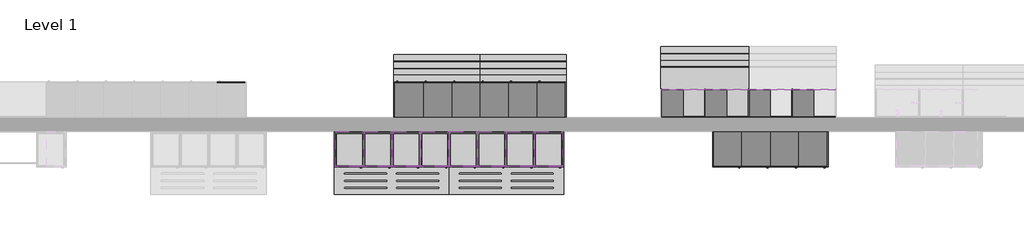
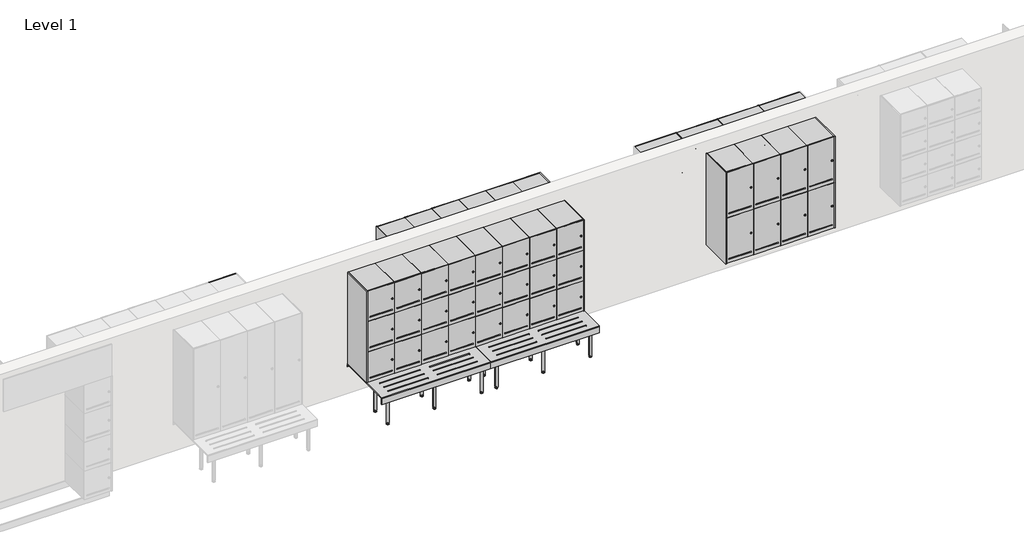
# One storey, part 3 of 4: 124 furniture elements.
"""IFC4 building model written with IfcOpenShell, lengths in millimetres."""

from ifc_helpers import new_model, si_unit, origin, place, context, project, spatial, transform, mapped, element, save
from components import furniture_05545089, furniture_7293fc8f, furniture_6c30b95b, standard_2dcb62da, standard_f5ae554c, standard_45df0485, standard_98e0e482, standard_13bdcb3e, standard_06cb4884, standard_31d623df, standard_bf09c246, standard_42a54a5f, standard_04b66620, standard_fa82621c, standard_c1a46ae4, standard_a503a910, standard_bb7d0adb, standard_d1edd0f1, standard_c1bdd0ff, standard_ba7fbf49, standard_b3b08be9

model = new_model("IFC4")

# Units and contexts
model_context = context("Model", 3, world=origin())
ifc_project = project(units=[si_unit("LENGTHUNIT", "METRE", prefix="MILLI")], contexts=[model_context])

# Site, building, storey
site = spatial("IfcSite", under=ifc_project)
building = spatial("IfcBuilding", under=site)
storey = spatial("IfcBuildingStorey", under=building, Name="Level 1", Elevation=0.0)

# Furniture
placement = place(None, origin())
furniture_shape = furniture_05545089(model_context)
element("IfcFurniture", 1, ObjectType="Lockers-Bay-Duracube-Duraloc : LBM-1900h x 500d x 400w with 470h Bench", at=placement, inside=storey, context=model_context, shape_type="MappedRepresentation", body=[
    mapped(furniture_shape, transform((-1055.1575415, 2567.7422336, 0.0), x_axis=(1.0, 0.0, 0.0), y_axis=(0.0, 1.0, 0.0), z_axis=(0.0, 0.0, 1.0))),
])
furniture_2_shape = furniture_7293fc8f(model_context)
element("IfcFurniture", 2, ObjectType="Lockers-Bay-Duracube-Duraloc : LWM-1900h x 500d x 400w @ 470h Wall", at=placement, inside=storey, context=model_context, shape_type="MappedRepresentation", body=[
    mapped(furniture_2_shape, transform((4264.8424585, 2567.7422336, 0.0), x_axis=(1.0, 0.0, 0.0), y_axis=(0.0, 1.0, 0.0), z_axis=(0.0, 0.0, 1.0))),
])
furniture_3_shape = furniture_6c30b95b(model_context)
element("IfcFurniture", 3, ObjectType="Lockers-Bay-Duracube-Duraloc : LSBSM-1900h x 500d x 400w with 470h Shoe Box Bench", at=placement, inside=storey, context=model_context, shape_type="MappedRepresentation", body=[
    mapped(furniture_3_shape, transform((2206.8576586, 3267.7422336, 0.0), x_axis=(-1.0, 0.0, 0.0), y_axis=(0.0, -1.0, 0.0), z_axis=(0.0, 0.0, 1.0))),
])
standard_shape = standard_2dcb62da(model_context)
element("IfcFurniture", 4, ObjectType="X_Bench-Foot-Duracube-Wall Assembly : Standard", at=placement, inside=storey, context=model_context, shape_type="MappedRepresentation", body=[
    mapped(standard_shape, transform((626.642132, 2317.7422336, 0.0), x_axis=(1.0, 0.0, 0.0), y_axis=(0.0, 1.0, 0.0), z_axis=(0.0, 0.0, 1.0))),
])
element("IfcFurniture", 5, ObjectType="X_Bench-Foot-Duracube-Wall Assembly : Standard", at=placement, inside=storey, context=model_context, shape_type="MappedRepresentation", body=[
    mapped(standard_shape, transform((1319.642132, 2317.7422336, 0.0), x_axis=(1.0, 0.0, 0.0), y_axis=(0.0, 1.0, 0.0), z_axis=(0.0, 0.0, 1.0))),
])
element("IfcFurniture", 6, ObjectType="X_Bench-Foot-Duracube-Wall Assembly : Standard", at=placement, inside=storey, context=model_context, shape_type="MappedRepresentation", body=[
    mapped(standard_shape, transform((-986.357868, 2317.7422336, 0.0), x_axis=(1.0, 0.0, 0.0), y_axis=(0.0, 1.0, 0.0), z_axis=(0.0, 0.0, 1.0))),
])
element("IfcFurniture", 7, ObjectType="X_Bench-Foot-Duracube-Wall Assembly : Standard", at=placement, inside=storey, context=model_context, shape_type="MappedRepresentation", body=[
    mapped(standard_shape, transform((-293.357868, 2317.7422336, 0.0), x_axis=(1.0, 0.0, 0.0), y_axis=(0.0, 1.0, 0.0), z_axis=(0.0, 0.0, 1.0))),
])
standard_2_shape = standard_f5ae554c(model_context)
element("IfcFurniture", 8, ObjectType="X_Bench-Foot-Duracube-Wall Assembly : Standard", at=placement, inside=storey, context=model_context, shape_type="MappedRepresentation", body=[
    mapped(standard_2_shape, transform((2102.0427849, 2317.7422336, 0.0), x_axis=(-1.0, 0.0, 0.0), y_axis=(0.0, -1.0, 0.0), z_axis=(0.0, 0.0, 1.0))),
])
element("IfcFurniture", 9, ObjectType="X_Bench-Foot-Duracube-Wall Assembly : Standard", at=placement, inside=storey, context=model_context, shape_type="MappedRepresentation", body=[
    mapped(standard_2_shape, transform((489.0427849, 2317.7422336, 0.0), x_axis=(-1.0, 0.0, 0.0), y_axis=(0.0, -1.0, 0.0), z_axis=(0.0, 0.0, 1.0))),
])
standard_3_shape = standard_45df0485(model_context)
element("IfcFurniture", 10, ObjectType="X_Vanity-Angle-Duracube-Bench Support : Standard", at=placement, inside=storey, context=model_context, shape_type="MappedRepresentation", body=[
    mapped(standard_3_shape, transform((1319.642132, 2817.7422336, 417.0), x_axis=(1.0, 0.0, 0.0), y_axis=(0.0, 1.0, 0.0), z_axis=(0.0, 0.0, 1.0))),
])
element("IfcFurniture", 11, ObjectType="X_Vanity-Angle-Duracube-Bench Support : Standard", at=placement, inside=storey, context=model_context, shape_type="MappedRepresentation", body=[
    mapped(standard_3_shape, transform((-293.357868, 2817.7422336, 417.0), x_axis=(1.0, 0.0, 0.0), y_axis=(0.0, 1.0, 0.0), z_axis=(0.0, 0.0, 1.0))),
])
standard_4_shape = standard_98e0e482(model_context)
element("IfcFurniture", 12, ObjectType="X_Bench-Wall-Duracube-Locker : Standard", at=placement, inside=storey, context=model_context, shape_type="MappedRepresentation", body=[
    mapped(standard_4_shape, transform((1319.642132, 2725.2422336, 0.0), x_axis=(1.0, 0.0, 0.0), y_axis=(0.0, 1.0, 0.0), z_axis=(0.0, 0.0, 1.0))),
])
element("IfcFurniture", 13, ObjectType="X_Bench-Wall-Duracube-Locker : Standard", at=placement, inside=storey, context=model_context, shape_type="MappedRepresentation", body=[
    mapped(standard_4_shape, transform((-293.357868, 2725.2422336, 0.0), x_axis=(1.0, 0.0, 0.0), y_axis=(0.0, 1.0, 0.0), z_axis=(0.0, 0.0, 1.0))),
])
standard_5_shape = standard_13bdcb3e(model_context)
element("IfcFurniture", 14, ObjectType="X_Vanity-Angle-Duracube-Bench Support : Standard", at=placement, inside=storey, context=model_context, shape_type="MappedRepresentation", body=[
    mapped(standard_5_shape, transform((1645.057985, 3017.7422336, 430.0), x_axis=(-1.0, 0.0, 0.0), y_axis=(0.0, -1.0, 0.0), z_axis=(0.0, 0.0, 1.0))),
])
element("IfcFurniture", 15, ObjectType="X_Vanity-Angle-Duracube-Bench Support : Standard", at=placement, inside=storey, context=model_context, shape_type="MappedRepresentation", body=[
    mapped(standard_5_shape, transform((432.057985, 3017.7422336, 430.0), x_axis=(-1.0, 0.0, 0.0), y_axis=(0.0, -1.0, 0.0), z_axis=(0.0, 0.0, 1.0))),
])
standard_6_shape = standard_06cb4884(model_context)
element("IfcFurniture", 16, ObjectType="X_Locker-Duracube-Door : Standard", at=placement, inside=storey, context=model_context, shape_type="MappedRepresentation", body=[
    mapped(standard_6_shape, transform((1913.142132, 2330.7422336, 1423.3333333), x_axis=(1.0, 0.0, 0.0), y_axis=(0.0, 1.0, 0.0), z_axis=(0.0, 0.0, 1.0))),
])
element("IfcFurniture", 17, ObjectType="X_Locker-Duracube-Door : Standard", at=placement, inside=storey, context=model_context, shape_type="MappedRepresentation", body=[
    mapped(standard_6_shape, transform((1513.142132, 2330.7422336, 1423.3333333), x_axis=(1.0, 0.0, 0.0), y_axis=(0.0, 1.0, 0.0), z_axis=(0.0, 0.0, 1.0))),
])
element("IfcFurniture", 18, ObjectType="X_Locker-Duracube-Door : Standard", at=placement, inside=storey, context=model_context, shape_type="MappedRepresentation", body=[
    mapped(standard_6_shape, transform((1113.142132, 2330.7422336, 1423.3333333), x_axis=(1.0, 0.0, 0.0), y_axis=(0.0, 1.0, 0.0), z_axis=(0.0, 0.0, 1.0))),
])
element("IfcFurniture", 19, ObjectType="X_Locker-Duracube-Door : Standard", at=placement, inside=storey, context=model_context, shape_type="MappedRepresentation", body=[
    mapped(standard_6_shape, transform((713.142132, 2330.7422336, 1423.3333333), x_axis=(1.0, 0.0, 0.0), y_axis=(0.0, 1.0, 0.0), z_axis=(0.0, 0.0, 1.0))),
])
element("IfcFurniture", 20, ObjectType="X_Locker-Duracube-Door : Standard", at=placement, inside=storey, context=model_context, shape_type="MappedRepresentation", body=[
    mapped(standard_6_shape, transform((313.142132, 2330.7422336, 1423.3333333), x_axis=(1.0, 0.0, 0.0), y_axis=(0.0, 1.0, 0.0), z_axis=(0.0, 0.0, 1.0))),
])
element("IfcFurniture", 21, ObjectType="X_Locker-Duracube-Door : Standard", at=placement, inside=storey, context=model_context, shape_type="MappedRepresentation", body=[
    mapped(standard_6_shape, transform((-86.857868, 2330.7422336, 1423.3333333), x_axis=(1.0, 0.0, 0.0), y_axis=(0.0, 1.0, 0.0), z_axis=(0.0, 0.0, 1.0))),
])
element("IfcFurniture", 22, ObjectType="X_Locker-Duracube-Door : Standard", at=placement, inside=storey, context=model_context, shape_type="MappedRepresentation", body=[
    mapped(standard_6_shape, transform((1913.142132, 2330.7422336, 946.6666667), x_axis=(1.0, 0.0, 0.0), y_axis=(0.0, 1.0, 0.0), z_axis=(0.0, 0.0, 1.0))),
])
element("IfcFurniture", 23, ObjectType="X_Locker-Duracube-Door : Standard", at=placement, inside=storey, context=model_context, shape_type="MappedRepresentation", body=[
    mapped(standard_6_shape, transform((1513.142132, 2330.7422336, 946.6666667), x_axis=(1.0, 0.0, 0.0), y_axis=(0.0, 1.0, 0.0), z_axis=(0.0, 0.0, 1.0))),
])
element("IfcFurniture", 24, ObjectType="X_Locker-Duracube-Door : Standard", at=placement, inside=storey, context=model_context, shape_type="MappedRepresentation", body=[
    mapped(standard_6_shape, transform((1113.142132, 2330.7422336, 946.6666667), x_axis=(1.0, 0.0, 0.0), y_axis=(0.0, 1.0, 0.0), z_axis=(0.0, 0.0, 1.0))),
])
element("IfcFurniture", 25, ObjectType="X_Locker-Duracube-Door : Standard", at=placement, inside=storey, context=model_context, shape_type="MappedRepresentation", body=[
    mapped(standard_6_shape, transform((713.142132, 2330.7422336, 946.6666667), x_axis=(1.0, 0.0, 0.0), y_axis=(0.0, 1.0, 0.0), z_axis=(0.0, 0.0, 1.0))),
])
element("IfcFurniture", 26, ObjectType="X_Locker-Duracube-Door : Standard", at=placement, inside=storey, context=model_context, shape_type="MappedRepresentation", body=[
    mapped(standard_6_shape, transform((313.142132, 2330.7422336, 946.6666667), x_axis=(1.0, 0.0, 0.0), y_axis=(0.0, 1.0, 0.0), z_axis=(0.0, 0.0, 1.0))),
])
element("IfcFurniture", 27, ObjectType="X_Locker-Duracube-Door : Standard", at=placement, inside=storey, context=model_context, shape_type="MappedRepresentation", body=[
    mapped(standard_6_shape, transform((-86.857868, 2330.7422336, 946.6666667), x_axis=(1.0, 0.0, 0.0), y_axis=(0.0, 1.0, 0.0), z_axis=(0.0, 0.0, 1.0))),
])
element("IfcFurniture", 28, ObjectType="X_Locker-Duracube-Door : Standard", at=placement, inside=storey, context=model_context, shape_type="MappedRepresentation", body=[
    mapped(standard_6_shape, transform((1913.142132, 2330.7422336, 470.0), x_axis=(1.0, 0.0, 0.0), y_axis=(0.0, 1.0, 0.0), z_axis=(0.0, 0.0, 1.0))),
])
element("IfcFurniture", 29, ObjectType="X_Locker-Duracube-Door : Standard", at=placement, inside=storey, context=model_context, shape_type="MappedRepresentation", body=[
    mapped(standard_6_shape, transform((1513.142132, 2330.7422336, 470.0), x_axis=(1.0, 0.0, 0.0), y_axis=(0.0, 1.0, 0.0), z_axis=(0.0, 0.0, 1.0))),
])
element("IfcFurniture", 30, ObjectType="X_Locker-Duracube-Door : Standard", at=placement, inside=storey, context=model_context, shape_type="MappedRepresentation", body=[
    mapped(standard_6_shape, transform((1113.142132, 2330.7422336, 470.0), x_axis=(1.0, 0.0, 0.0), y_axis=(0.0, 1.0, 0.0), z_axis=(0.0, 0.0, 1.0))),
])
element("IfcFurniture", 31, ObjectType="X_Locker-Duracube-Door : Standard", at=placement, inside=storey, context=model_context, shape_type="MappedRepresentation", body=[
    mapped(standard_6_shape, transform((713.142132, 2330.7422336, 470.0), x_axis=(1.0, 0.0, 0.0), y_axis=(0.0, 1.0, 0.0), z_axis=(0.0, 0.0, 1.0))),
])
element("IfcFurniture", 32, ObjectType="X_Locker-Duracube-Door : Standard", at=placement, inside=storey, context=model_context, shape_type="MappedRepresentation", body=[
    mapped(standard_6_shape, transform((313.142132, 2330.7422336, 470.0), x_axis=(1.0, 0.0, 0.0), y_axis=(0.0, 1.0, 0.0), z_axis=(0.0, 0.0, 1.0))),
])
element("IfcFurniture", 33, ObjectType="X_Locker-Duracube-Door : Standard", at=placement, inside=storey, context=model_context, shape_type="MappedRepresentation", body=[
    mapped(standard_6_shape, transform((-86.857868, 2330.7422336, 470.0), x_axis=(1.0, 0.0, 0.0), y_axis=(0.0, 1.0, 0.0), z_axis=(0.0, 0.0, 1.0))),
])
element("IfcFurniture", 34, ObjectType="X_Locker-Duracube-Door : Standard", at=placement, inside=storey, context=model_context, shape_type="MappedRepresentation", body=[
    mapped(standard_6_shape, transform((-486.857868, 2330.7422336, 1423.3333333), x_axis=(1.0, 0.0, 0.0), y_axis=(0.0, 1.0, 0.0), z_axis=(0.0, 0.0, 1.0))),
])
element("IfcFurniture", 35, ObjectType="X_Locker-Duracube-Door : Standard", at=placement, inside=storey, context=model_context, shape_type="MappedRepresentation", body=[
    mapped(standard_6_shape, transform((-486.857868, 2330.7422336, 946.6666667), x_axis=(1.0, 0.0, 0.0), y_axis=(0.0, 1.0, 0.0), z_axis=(0.0, 0.0, 1.0))),
])
element("IfcFurniture", 36, ObjectType="X_Locker-Duracube-Door : Standard", at=placement, inside=storey, context=model_context, shape_type="MappedRepresentation", body=[
    mapped(standard_6_shape, transform((-486.857868, 2330.7422336, 470.0), x_axis=(1.0, 0.0, 0.0), y_axis=(0.0, 1.0, 0.0), z_axis=(0.0, 0.0, 1.0))),
])
element("IfcFurniture", 37, ObjectType="X_Locker-Duracube-Door : Standard", at=placement, inside=storey, context=model_context, shape_type="MappedRepresentation", body=[
    mapped(standard_6_shape, transform((-886.857868, 2330.7422336, 1423.3333333), x_axis=(1.0, 0.0, 0.0), y_axis=(0.0, 1.0, 0.0), z_axis=(0.0, 0.0, 1.0))),
])
element("IfcFurniture", 38, ObjectType="X_Locker-Duracube-Door : Standard", at=placement, inside=storey, context=model_context, shape_type="MappedRepresentation", body=[
    mapped(standard_6_shape, transform((-886.857868, 2330.7422336, 946.6666667), x_axis=(1.0, 0.0, 0.0), y_axis=(0.0, 1.0, 0.0), z_axis=(0.0, 0.0, 1.0))),
])
element("IfcFurniture", 39, ObjectType="X_Locker-Duracube-Door : Standard", at=placement, inside=storey, context=model_context, shape_type="MappedRepresentation", body=[
    mapped(standard_6_shape, transform((-886.857868, 2330.7422336, 470.0), x_axis=(1.0, 0.0, 0.0), y_axis=(0.0, 1.0, 0.0), z_axis=(0.0, 0.0, 1.0))),
])
standard_7_shape = standard_31d623df(model_context)
element("IfcFurniture", 40, ObjectType="X_Locker-Duracube-Door : Standard", at=placement, inside=storey, context=model_context, shape_type="MappedRepresentation", body=[
    mapped(standard_7_shape, transform((5633.142132, 2330.7422336, 1185.0), x_axis=(1.0, 0.0, 0.0), y_axis=(0.0, 1.0, 0.0), z_axis=(0.0, 0.0, 1.0))),
])
element("IfcFurniture", 41, ObjectType="X_Locker-Duracube-Door : Standard", at=placement, inside=storey, context=model_context, shape_type="MappedRepresentation", body=[
    mapped(standard_7_shape, transform((5233.142132, 2330.7422336, 1185.0), x_axis=(1.0, 0.0, 0.0), y_axis=(0.0, 1.0, 0.0), z_axis=(0.0, 0.0, 1.0))),
])
element("IfcFurniture", 42, ObjectType="X_Locker-Duracube-Door : Standard", at=placement, inside=storey, context=model_context, shape_type="MappedRepresentation", body=[
    mapped(standard_7_shape, transform((5633.142132, 2330.7422336, 470.0), x_axis=(1.0, 0.0, 0.0), y_axis=(0.0, 1.0, 0.0), z_axis=(0.0, 0.0, 1.0))),
])
element("IfcFurniture", 43, ObjectType="X_Locker-Duracube-Door : Standard", at=placement, inside=storey, context=model_context, shape_type="MappedRepresentation", body=[
    mapped(standard_7_shape, transform((5233.142132, 2330.7422336, 470.0), x_axis=(1.0, 0.0, 0.0), y_axis=(0.0, 1.0, 0.0), z_axis=(0.0, 0.0, 1.0))),
])
element("IfcFurniture", 44, ObjectType="X_Locker-Duracube-Door : Standard", at=placement, inside=storey, context=model_context, shape_type="MappedRepresentation", body=[
    mapped(standard_7_shape, transform((4833.142132, 2330.7422336, 1185.0), x_axis=(1.0, 0.0, 0.0), y_axis=(0.0, 1.0, 0.0), z_axis=(0.0, 0.0, 1.0))),
])
element("IfcFurniture", 45, ObjectType="X_Locker-Duracube-Door : Standard", at=placement, inside=storey, context=model_context, shape_type="MappedRepresentation", body=[
    mapped(standard_7_shape, transform((4833.142132, 2330.7422336, 470.0), x_axis=(1.0, 0.0, 0.0), y_axis=(0.0, 1.0, 0.0), z_axis=(0.0, 0.0, 1.0))),
])
element("IfcFurniture", 46, ObjectType="X_Locker-Duracube-Door : Standard", at=placement, inside=storey, context=model_context, shape_type="MappedRepresentation", body=[
    mapped(standard_7_shape, transform((4433.142132, 2330.7422336, 1185.0), x_axis=(1.0, 0.0, 0.0), y_axis=(0.0, 1.0, 0.0), z_axis=(0.0, 0.0, 1.0))),
])
element("IfcFurniture", 47, ObjectType="X_Locker-Duracube-Door : Standard", at=placement, inside=storey, context=model_context, shape_type="MappedRepresentation", body=[
    mapped(standard_7_shape, transform((4433.142132, 2330.7422336, 470.0), x_axis=(1.0, 0.0, 0.0), y_axis=(0.0, 1.0, 0.0), z_axis=(0.0, 0.0, 1.0))),
])
element("IfcFurniture", 48, ObjectType="X_Locker-Duracube-Door : Standard", at=placement, inside=storey, context=model_context, shape_type="MappedRepresentation", body=[
    mapped(standard_7_shape, transform((-2861.442015, 3504.7422336, 470.0), x_axis=(-1.0, 0.0, 0.0), y_axis=(0.0, -1.0, 0.0), z_axis=(0.0, 0.0, 1.0))),
])
element("IfcFurniture", 49, ObjectType="X_Locker-Duracube-Door : Standard", at=placement, inside=storey, context=model_context, shape_type="MappedRepresentation", body=[
    mapped(standard_7_shape, transform((-2461.442015, 3504.7422336, 1185.0), x_axis=(-1.0, 0.0, 0.0), y_axis=(0.0, -1.0, 0.0), z_axis=(0.0, 0.0, 1.0))),
])
element("IfcFurniture", 50, ObjectType="X_Locker-Duracube-Door : Standard", at=placement, inside=storey, context=model_context, shape_type="MappedRepresentation", body=[
    mapped(standard_7_shape, transform((-2461.442015, 3504.7422336, 470.0), x_axis=(-1.0, 0.0, 0.0), y_axis=(0.0, -1.0, 0.0), z_axis=(0.0, 0.0, 1.0))),
])
element("IfcFurniture", 51, ObjectType="X_Locker-Duracube-Door : Standard", at=placement, inside=storey, context=model_context, shape_type="MappedRepresentation", body=[
    mapped(standard_7_shape, transform((38.557985, 3504.7422336, 1185.0), x_axis=(-1.0, 0.0, 0.0), y_axis=(0.0, -1.0, 0.0), z_axis=(0.0, 0.0, 1.0))),
])
element("IfcFurniture", 52, ObjectType="X_Locker-Duracube-Door : Standard", at=placement, inside=storey, context=model_context, shape_type="MappedRepresentation", body=[
    mapped(standard_7_shape, transform((438.557985, 3504.7422336, 1185.0), x_axis=(-1.0, 0.0, 0.0), y_axis=(0.0, -1.0, 0.0), z_axis=(0.0, 0.0, 1.0))),
])
element("IfcFurniture", 53, ObjectType="X_Locker-Duracube-Door : Standard", at=placement, inside=storey, context=model_context, shape_type="MappedRepresentation", body=[
    mapped(standard_7_shape, transform((838.557985, 3504.7422336, 1185.0), x_axis=(-1.0, 0.0, 0.0), y_axis=(0.0, -1.0, 0.0), z_axis=(0.0, 0.0, 1.0))),
])
element("IfcFurniture", 54, ObjectType="X_Locker-Duracube-Door : Standard", at=placement, inside=storey, context=model_context, shape_type="MappedRepresentation", body=[
    mapped(standard_7_shape, transform((1238.557985, 3504.7422336, 1185.0), x_axis=(-1.0, 0.0, 0.0), y_axis=(0.0, -1.0, 0.0), z_axis=(0.0, 0.0, 1.0))),
])
element("IfcFurniture", 55, ObjectType="X_Locker-Duracube-Door : Standard", at=placement, inside=storey, context=model_context, shape_type="MappedRepresentation", body=[
    mapped(standard_7_shape, transform((38.557985, 3504.7422336, 470.0), x_axis=(-1.0, 0.0, 0.0), y_axis=(0.0, -1.0, 0.0), z_axis=(0.0, 0.0, 1.0))),
])
element("IfcFurniture", 56, ObjectType="X_Locker-Duracube-Door : Standard", at=placement, inside=storey, context=model_context, shape_type="MappedRepresentation", body=[
    mapped(standard_7_shape, transform((438.557985, 3504.7422336, 470.0), x_axis=(-1.0, 0.0, 0.0), y_axis=(0.0, -1.0, 0.0), z_axis=(0.0, 0.0, 1.0))),
])
element("IfcFurniture", 57, ObjectType="X_Locker-Duracube-Door : Standard", at=placement, inside=storey, context=model_context, shape_type="MappedRepresentation", body=[
    mapped(standard_7_shape, transform((838.557985, 3504.7422336, 470.0), x_axis=(-1.0, 0.0, 0.0), y_axis=(0.0, -1.0, 0.0), z_axis=(0.0, 0.0, 1.0))),
])
element("IfcFurniture", 58, ObjectType="X_Locker-Duracube-Door : Standard", at=placement, inside=storey, context=model_context, shape_type="MappedRepresentation", body=[
    mapped(standard_7_shape, transform((1238.557985, 3504.7422336, 470.0), x_axis=(-1.0, 0.0, 0.0), y_axis=(0.0, -1.0, 0.0), z_axis=(0.0, 0.0, 1.0))),
])
element("IfcFurniture", 59, ObjectType="X_Locker-Duracube-Door : Standard", at=placement, inside=storey, context=model_context, shape_type="MappedRepresentation", body=[
    mapped(standard_7_shape, transform((1638.557985, 3504.7422336, 1185.0), x_axis=(-1.0, 0.0, 0.0), y_axis=(0.0, -1.0, 0.0), z_axis=(0.0, 0.0, 1.0))),
])
element("IfcFurniture", 60, ObjectType="X_Locker-Duracube-Door : Standard", at=placement, inside=storey, context=model_context, shape_type="MappedRepresentation", body=[
    mapped(standard_7_shape, transform((1638.557985, 3504.7422336, 470.0), x_axis=(-1.0, 0.0, 0.0), y_axis=(0.0, -1.0, 0.0), z_axis=(0.0, 0.0, 1.0))),
])
element("IfcFurniture", 61, ObjectType="X_Locker-Duracube-Door : Standard", at=placement, inside=storey, context=model_context, shape_type="MappedRepresentation", body=[
    mapped(standard_7_shape, transform((2038.557985, 3504.7422336, 1185.0), x_axis=(-1.0, 0.0, 0.0), y_axis=(0.0, -1.0, 0.0), z_axis=(0.0, 0.0, 1.0))),
])
element("IfcFurniture", 62, ObjectType="X_Locker-Duracube-Door : Standard", at=placement, inside=storey, context=model_context, shape_type="MappedRepresentation", body=[
    mapped(standard_7_shape, transform((2038.557985, 3504.7422336, 470.0), x_axis=(-1.0, 0.0, 0.0), y_axis=(0.0, -1.0, 0.0), z_axis=(0.0, 0.0, 1.0))),
])
standard_8_shape = standard_bf09c246(model_context)
element("IfcFurniture", 63, ObjectType="X_Locker-Duracube-Bay : Standard", at=placement, inside=storey, context=model_context, shape_type="MappedRepresentation", body=[
    mapped(standard_8_shape, transform((38.557985, 3017.7422336, 1185.0), x_axis=(-1.0, 0.0, 0.0), y_axis=(0.0, -1.0, 0.0), z_axis=(0.0, 0.0, 1.0))),
])
element("IfcFurniture", 64, ObjectType="X_Locker-Duracube-Bay : Standard", at=placement, inside=storey, context=model_context, shape_type="MappedRepresentation", body=[
    mapped(standard_8_shape, transform((438.557985, 3017.7422336, 1185.0), x_axis=(-1.0, 0.0, 0.0), y_axis=(0.0, -1.0, 0.0), z_axis=(0.0, 0.0, 1.0))),
])
element("IfcFurniture", 65, ObjectType="X_Locker-Duracube-Bay : Standard", at=placement, inside=storey, context=model_context, shape_type="MappedRepresentation", body=[
    mapped(standard_8_shape, transform((838.557985, 3017.7422336, 1185.0), x_axis=(-1.0, 0.0, 0.0), y_axis=(0.0, -1.0, 0.0), z_axis=(0.0, 0.0, 1.0))),
])
element("IfcFurniture", 66, ObjectType="X_Locker-Duracube-Bay : Standard", at=placement, inside=storey, context=model_context, shape_type="MappedRepresentation", body=[
    mapped(standard_8_shape, transform((1238.557985, 3017.7422336, 1185.0), x_axis=(-1.0, 0.0, 0.0), y_axis=(0.0, -1.0, 0.0), z_axis=(0.0, 0.0, 1.0))),
])
element("IfcFurniture", 67, ObjectType="X_Locker-Duracube-Bay : Standard", at=placement, inside=storey, context=model_context, shape_type="MappedRepresentation", body=[
    mapped(standard_8_shape, transform((38.557985, 3017.7422336, 470.0), x_axis=(-1.0, 0.0, 0.0), y_axis=(0.0, -1.0, 0.0), z_axis=(0.0, 0.0, 1.0))),
])
element("IfcFurniture", 68, ObjectType="X_Locker-Duracube-Bay : Standard", at=placement, inside=storey, context=model_context, shape_type="MappedRepresentation", body=[
    mapped(standard_8_shape, transform((438.557985, 3017.7422336, 470.0), x_axis=(-1.0, 0.0, 0.0), y_axis=(0.0, -1.0, 0.0), z_axis=(0.0, 0.0, 1.0))),
])
element("IfcFurniture", 69, ObjectType="X_Locker-Duracube-Bay : Standard", at=placement, inside=storey, context=model_context, shape_type="MappedRepresentation", body=[
    mapped(standard_8_shape, transform((838.557985, 3017.7422336, 470.0), x_axis=(-1.0, 0.0, 0.0), y_axis=(0.0, -1.0, 0.0), z_axis=(0.0, 0.0, 1.0))),
])
element("IfcFurniture", 70, ObjectType="X_Locker-Duracube-Bay : Standard", at=placement, inside=storey, context=model_context, shape_type="MappedRepresentation", body=[
    mapped(standard_8_shape, transform((1238.557985, 3017.7422336, 470.0), x_axis=(-1.0, 0.0, 0.0), y_axis=(0.0, -1.0, 0.0), z_axis=(0.0, 0.0, 1.0))),
])
element("IfcFurniture", 71, ObjectType="X_Locker-Duracube-Bay : Standard", at=placement, inside=storey, context=model_context, shape_type="MappedRepresentation", body=[
    mapped(standard_8_shape, transform((1638.557985, 3017.7422336, 1185.0), x_axis=(-1.0, 0.0, 0.0), y_axis=(0.0, -1.0, 0.0), z_axis=(0.0, 0.0, 1.0))),
])
element("IfcFurniture", 72, ObjectType="X_Locker-Duracube-Bay : Standard", at=placement, inside=storey, context=model_context, shape_type="MappedRepresentation", body=[
    mapped(standard_8_shape, transform((1638.557985, 3017.7422336, 470.0), x_axis=(-1.0, 0.0, 0.0), y_axis=(0.0, -1.0, 0.0), z_axis=(0.0, 0.0, 1.0))),
])
element("IfcFurniture", 73, ObjectType="X_Locker-Duracube-Bay : Standard", at=placement, inside=storey, context=model_context, shape_type="MappedRepresentation", body=[
    mapped(standard_8_shape, transform((2038.557985, 3017.7422336, 1185.0), x_axis=(-1.0, 0.0, 0.0), y_axis=(0.0, -1.0, 0.0), z_axis=(0.0, 0.0, 1.0))),
])
element("IfcFurniture", 74, ObjectType="X_Locker-Duracube-Bay : Standard", at=placement, inside=storey, context=model_context, shape_type="MappedRepresentation", body=[
    mapped(standard_8_shape, transform((2038.557985, 3017.7422336, 470.0), x_axis=(-1.0, 0.0, 0.0), y_axis=(0.0, -1.0, 0.0), z_axis=(0.0, 0.0, 1.0))),
])
standard_9_shape = standard_42a54a5f(model_context)
element("IfcFurniture", 75, ObjectType="X_Locker-Duracube-Shoe Box : Standard", at=placement, inside=storey, context=model_context, shape_type="MappedRepresentation", body=[
    mapped(standard_9_shape, transform((1645.057985, 3110.2422336, 0.0), x_axis=(-1.0, 0.0, 0.0), y_axis=(0.0, -1.0, 0.0), z_axis=(0.0, 0.0, 1.0))),
])
standard_10_shape = standard_04b66620(model_context)
element("IfcFurniture", 76, ObjectType="X_Locker-Duracube-Shoe Box : Standard", at=placement, inside=storey, context=model_context, shape_type="MappedRepresentation", body=[
    mapped(standard_10_shape, transform((432.057985, 3110.2422336, 0.0), x_axis=(-1.0, 0.0, 0.0), y_axis=(0.0, -1.0, 0.0), z_axis=(0.0, 0.0, 1.0))),
])
standard_11_shape = standard_fa82621c(model_context)
element("IfcFurniture", 77, ObjectType="X_Locker-Duracube-Panel : Standard", at=placement, inside=storey, context=model_context, shape_type="MappedRepresentation", body=[
    mapped(standard_11_shape, transform((4165.8424585, 3262.44256, 470.0), x_axis=(0.0, -1.0, 0.0), y_axis=(1.0, 0.0, 0.0), z_axis=(0.0, 0.0, 1.0))),
])
element("IfcFurniture", 78, ObjectType="X_Locker-Duracube-Panel : Standard", at=placement, inside=storey, context=model_context, shape_type="MappedRepresentation", body=[
    mapped(standard_11_shape, transform((4778.8424585, 3262.44256, 470.0), x_axis=(0.0, -1.0, 0.0), y_axis=(1.0, 0.0, 0.0), z_axis=(0.0, 0.0, 1.0))),
])
element("IfcFurniture", 79, ObjectType="X_Locker-Duracube-Panel : Standard", at=placement, inside=storey, context=model_context, shape_type="MappedRepresentation", body=[
    mapped(standard_11_shape, transform((5391.8424585, 3262.44256, 470.0), x_axis=(0.0, -1.0, 0.0), y_axis=(1.0, 0.0, 0.0), z_axis=(0.0, 0.0, 1.0))),
])
standard_12_shape = standard_c1a46ae4(model_context)
element("IfcFurniture", 80, ObjectType="X_Bench-Foot-Duracube-Player Wall Assembly : Standard", at=placement, inside=storey, context=model_context, shape_type="MappedRepresentation", body=[
    mapped(standard_12_shape, transform((4703.5427849, 3232.7422336, 0.0), x_axis=(-1.0, 0.0, 0.0), y_axis=(0.0, -1.0, 0.0), z_axis=(0.0, 0.0, 1.0))),
])
standard_13_shape = standard_a503a910(model_context)
element("IfcFurniture", 81, ObjectType="X_Bench-Foot-Duracube-Player Wall Assembly : Standard", at=placement, inside=storey, context=model_context, shape_type="MappedRepresentation", body=[
    mapped(standard_13_shape, transform((4841.142132, 3232.7422336, 0.0), x_axis=(1.0, 0.0, 0.0), y_axis=(0.0, 1.0, 0.0), z_axis=(0.0, 0.0, 1.0))),
])
element("IfcFurniture", 82, ObjectType="X_Bench-Foot-Duracube-Player Wall Assembly : Standard", at=placement, inside=storey, context=model_context, shape_type="MappedRepresentation", body=[
    mapped(standard_13_shape, transform((3608.642132, 3232.7422336, 0.0), x_axis=(1.0, 0.0, 0.0), y_axis=(0.0, 1.0, 0.0), z_axis=(0.0, 0.0, 1.0))),
])
standard_14_shape = standard_bb7d0adb(model_context)
element("IfcFurniture", 83, ObjectType="X_Vanity-Angle-Duracube-Bench Support : Standard", at=placement, inside=storey, context=model_context, shape_type="MappedRepresentation", body=[
    mapped(standard_14_shape, transform((4200.7927849, 3017.7422336, 417.0), x_axis=(-1.0, 0.0, 0.0), y_axis=(0.0, -1.0, 0.0), z_axis=(0.0, 0.0, 1.0))),
])
standard_15_shape = standard_d1edd0f1(model_context)
element("IfcFurniture", 84, ObjectType="X_Locker-Duracube-Player Door : Standard", at=placement, inside=storey, context=model_context, shape_type="MappedRepresentation", body=[
    mapped(standard_15_shape, transform((4510.5427849, 3404.7422336, 1500.0), x_axis=(-1.0, 0.0, 0.0), y_axis=(0.0, -1.0, 0.0), z_axis=(0.0, 0.0, 1.0))),
])
element("IfcFurniture", 85, ObjectType="X_Locker-Duracube-Player Door : Standard", at=placement, inside=storey, context=model_context, shape_type="MappedRepresentation", body=[
    mapped(standard_15_shape, transform((5123.5427849, 3404.7422336, 1500.0), x_axis=(-1.0, 0.0, 0.0), y_axis=(0.0, -1.0, 0.0), z_axis=(0.0, 0.0, 1.0))),
])
element("IfcFurniture", 86, ObjectType="X_Locker-Duracube-Player Door : Standard", at=placement, inside=storey, context=model_context, shape_type="MappedRepresentation", body=[
    mapped(standard_15_shape, transform((5736.5427849, 3404.7422336, 1500.0), x_axis=(-1.0, 0.0, 0.0), y_axis=(0.0, -1.0, 0.0), z_axis=(0.0, 0.0, 1.0))),
])
element("IfcFurniture", 87, ObjectType="X_Locker-Duracube-Player Door : Standard", at=placement, inside=storey, context=model_context, shape_type="MappedRepresentation", body=[
    mapped(standard_15_shape, transform((3897.5427849, 3404.7422336, 1500.0), x_axis=(-1.0, 0.0, 0.0), y_axis=(0.0, -1.0, 0.0), z_axis=(0.0, 0.0, 1.0))),
])
standard_16_shape = standard_c1bdd0ff(model_context)
element("IfcFurniture", 88, ObjectType="X_Locker-Duracube-Player Bay : Standard", at=placement, inside=storey, context=model_context, shape_type="MappedRepresentation", body=[
    mapped(standard_16_shape, transform((4510.5427849, 3017.7422336, 470.0), x_axis=(-1.0, 0.0, 0.0), y_axis=(0.0, -1.0, 0.0), z_axis=(0.0, 0.0, 1.0))),
])
element("IfcFurniture", 89, ObjectType="X_Locker-Duracube-Player Bay : Standard", at=placement, inside=storey, context=model_context, shape_type="MappedRepresentation", body=[
    mapped(standard_16_shape, transform((5123.5427849, 3017.7422336, 470.0), x_axis=(-1.0, 0.0, 0.0), y_axis=(0.0, -1.0, 0.0), z_axis=(0.0, 0.0, 1.0))),
])
element("IfcFurniture", 90, ObjectType="X_Locker-Duracube-Player Bay : Standard", at=placement, inside=storey, context=model_context, shape_type="MappedRepresentation", body=[
    mapped(standard_16_shape, transform((5736.5427849, 3017.7422336, 470.0), x_axis=(-1.0, 0.0, 0.0), y_axis=(0.0, -1.0, 0.0), z_axis=(0.0, 0.0, 1.0))),
])
element("IfcFurniture", 91, ObjectType="X_Locker-Duracube-Player Bay : Standard", at=placement, inside=storey, context=model_context, shape_type="MappedRepresentation", body=[
    mapped(standard_16_shape, transform((3897.5427849, 3017.7422336, 470.0), x_axis=(-1.0, 0.0, 0.0), y_axis=(0.0, -1.0, 0.0), z_axis=(0.0, 0.0, 1.0))),
])
standard_17_shape = standard_ba7fbf49(model_context)
element("IfcFurniture", 92, ObjectType="X_Bench-Wall-Duracube-Player Locker : Standard", at=placement, inside=storey, context=model_context, shape_type="MappedRepresentation", body=[
    mapped(standard_17_shape, transform((4200.7927849, 3225.2422336, 0.0), x_axis=(-1.0, 0.0, 0.0), y_axis=(0.0, -1.0, 0.0), z_axis=(0.0, 0.0, 1.0))),
])
standard_18_shape = standard_b3b08be9(model_context)
element("IfcFurniture", 93, ObjectType="X_Locker-Duracube-Bay : Standard", at=placement, inside=storey, context=model_context, shape_type="MappedRepresentation", body=[
    mapped(standard_18_shape, transform((1913.142132, 2817.7422336, 1423.3333333), x_axis=(1.0, 0.0, 0.0), y_axis=(0.0, 1.0, 0.0), z_axis=(0.0, 0.0, 1.0))),
])
element("IfcFurniture", 94, ObjectType="X_Locker-Duracube-Bay : Standard", at=placement, inside=storey, context=model_context, shape_type="MappedRepresentation", body=[
    mapped(standard_18_shape, transform((1513.142132, 2817.7422336, 1423.3333333), x_axis=(1.0, 0.0, 0.0), y_axis=(0.0, 1.0, 0.0), z_axis=(0.0, 0.0, 1.0))),
])
element("IfcFurniture", 95, ObjectType="X_Locker-Duracube-Bay : Standard", at=placement, inside=storey, context=model_context, shape_type="MappedRepresentation", body=[
    mapped(standard_18_shape, transform((1113.142132, 2817.7422336, 1423.3333333), x_axis=(1.0, 0.0, 0.0), y_axis=(0.0, 1.0, 0.0), z_axis=(0.0, 0.0, 1.0))),
])
element("IfcFurniture", 96, ObjectType="X_Locker-Duracube-Bay : Standard", at=placement, inside=storey, context=model_context, shape_type="MappedRepresentation", body=[
    mapped(standard_18_shape, transform((713.142132, 2817.7422336, 1423.3333333), x_axis=(1.0, 0.0, 0.0), y_axis=(0.0, 1.0, 0.0), z_axis=(0.0, 0.0, 1.0))),
])
element("IfcFurniture", 97, ObjectType="X_Locker-Duracube-Bay : Standard", at=placement, inside=storey, context=model_context, shape_type="MappedRepresentation", body=[
    mapped(standard_18_shape, transform((313.142132, 2817.7422336, 1423.3333333), x_axis=(1.0, 0.0, 0.0), y_axis=(0.0, 1.0, 0.0), z_axis=(0.0, 0.0, 1.0))),
])
element("IfcFurniture", 98, ObjectType="X_Locker-Duracube-Bay : Standard", at=placement, inside=storey, context=model_context, shape_type="MappedRepresentation", body=[
    mapped(standard_18_shape, transform((-86.857868, 2817.7422336, 1423.3333333), x_axis=(1.0, 0.0, 0.0), y_axis=(0.0, 1.0, 0.0), z_axis=(0.0, 0.0, 1.0))),
])
element("IfcFurniture", 99, ObjectType="X_Locker-Duracube-Bay : Standard", at=placement, inside=storey, context=model_context, shape_type="MappedRepresentation", body=[
    mapped(standard_18_shape, transform((1913.142132, 2817.7422336, 946.6666667), x_axis=(1.0, 0.0, 0.0), y_axis=(0.0, 1.0, 0.0), z_axis=(0.0, 0.0, 1.0))),
])
element("IfcFurniture", 100, ObjectType="X_Locker-Duracube-Bay : Standard", at=placement, inside=storey, context=model_context, shape_type="MappedRepresentation", body=[
    mapped(standard_18_shape, transform((1513.142132, 2817.7422336, 946.6666667), x_axis=(1.0, 0.0, 0.0), y_axis=(0.0, 1.0, 0.0), z_axis=(0.0, 0.0, 1.0))),
])
element("IfcFurniture", 101, ObjectType="X_Locker-Duracube-Bay : Standard", at=placement, inside=storey, context=model_context, shape_type="MappedRepresentation", body=[
    mapped(standard_18_shape, transform((1113.142132, 2817.7422336, 946.6666667), x_axis=(1.0, 0.0, 0.0), y_axis=(0.0, 1.0, 0.0), z_axis=(0.0, 0.0, 1.0))),
])
element("IfcFurniture", 102, ObjectType="X_Locker-Duracube-Bay : Standard", at=placement, inside=storey, context=model_context, shape_type="MappedRepresentation", body=[
    mapped(standard_18_shape, transform((713.142132, 2817.7422336, 946.6666667), x_axis=(1.0, 0.0, 0.0), y_axis=(0.0, 1.0, 0.0), z_axis=(0.0, 0.0, 1.0))),
])
element("IfcFurniture", 103, ObjectType="X_Locker-Duracube-Bay : Standard", at=placement, inside=storey, context=model_context, shape_type="MappedRepresentation", body=[
    mapped(standard_18_shape, transform((313.142132, 2817.7422336, 946.6666667), x_axis=(1.0, 0.0, 0.0), y_axis=(0.0, 1.0, 0.0), z_axis=(0.0, 0.0, 1.0))),
])
element("IfcFurniture", 104, ObjectType="X_Locker-Duracube-Bay : Standard", at=placement, inside=storey, context=model_context, shape_type="MappedRepresentation", body=[
    mapped(standard_18_shape, transform((-86.857868, 2817.7422336, 946.6666667), x_axis=(1.0, 0.0, 0.0), y_axis=(0.0, 1.0, 0.0), z_axis=(0.0, 0.0, 1.0))),
])
element("IfcFurniture", 105, ObjectType="X_Locker-Duracube-Bay : Standard", at=placement, inside=storey, context=model_context, shape_type="MappedRepresentation", body=[
    mapped(standard_18_shape, transform((1913.142132, 2817.7422336, 470.0), x_axis=(1.0, 0.0, 0.0), y_axis=(0.0, 1.0, 0.0), z_axis=(0.0, 0.0, 1.0))),
])
element("IfcFurniture", 106, ObjectType="X_Locker-Duracube-Bay : Standard", at=placement, inside=storey, context=model_context, shape_type="MappedRepresentation", body=[
    mapped(standard_18_shape, transform((1513.142132, 2817.7422336, 470.0), x_axis=(1.0, 0.0, 0.0), y_axis=(0.0, 1.0, 0.0), z_axis=(0.0, 0.0, 1.0))),
])
element("IfcFurniture", 107, ObjectType="X_Locker-Duracube-Bay : Standard", at=placement, inside=storey, context=model_context, shape_type="MappedRepresentation", body=[
    mapped(standard_18_shape, transform((1113.142132, 2817.7422336, 470.0), x_axis=(1.0, 0.0, 0.0), y_axis=(0.0, 1.0, 0.0), z_axis=(0.0, 0.0, 1.0))),
])
element("IfcFurniture", 108, ObjectType="X_Locker-Duracube-Bay : Standard", at=placement, inside=storey, context=model_context, shape_type="MappedRepresentation", body=[
    mapped(standard_18_shape, transform((713.142132, 2817.7422336, 470.0), x_axis=(1.0, 0.0, 0.0), y_axis=(0.0, 1.0, 0.0), z_axis=(0.0, 0.0, 1.0))),
])
element("IfcFurniture", 109, ObjectType="X_Locker-Duracube-Bay : Standard", at=placement, inside=storey, context=model_context, shape_type="MappedRepresentation", body=[
    mapped(standard_18_shape, transform((313.142132, 2817.7422336, 470.0), x_axis=(1.0, 0.0, 0.0), y_axis=(0.0, 1.0, 0.0), z_axis=(0.0, 0.0, 1.0))),
])
element("IfcFurniture", 110, ObjectType="X_Locker-Duracube-Bay : Standard", at=placement, inside=storey, context=model_context, shape_type="MappedRepresentation", body=[
    mapped(standard_18_shape, transform((-86.857868, 2817.7422336, 470.0), x_axis=(1.0, 0.0, 0.0), y_axis=(0.0, 1.0, 0.0), z_axis=(0.0, 0.0, 1.0))),
])
element("IfcFurniture", 111, ObjectType="X_Locker-Duracube-Bay : Standard", at=placement, inside=storey, context=model_context, shape_type="MappedRepresentation", body=[
    mapped(standard_18_shape, transform((-486.857868, 2817.7422336, 1423.3333333), x_axis=(1.0, 0.0, 0.0), y_axis=(0.0, 1.0, 0.0), z_axis=(0.0, 0.0, 1.0))),
])
element("IfcFurniture", 112, ObjectType="X_Locker-Duracube-Bay : Standard", at=placement, inside=storey, context=model_context, shape_type="MappedRepresentation", body=[
    mapped(standard_18_shape, transform((-486.857868, 2817.7422336, 946.6666667), x_axis=(1.0, 0.0, 0.0), y_axis=(0.0, 1.0, 0.0), z_axis=(0.0, 0.0, 1.0))),
])
element("IfcFurniture", 113, ObjectType="X_Locker-Duracube-Bay : Standard", at=placement, inside=storey, context=model_context, shape_type="MappedRepresentation", body=[
    mapped(standard_18_shape, transform((-486.857868, 2817.7422336, 470.0), x_axis=(1.0, 0.0, 0.0), y_axis=(0.0, 1.0, 0.0), z_axis=(0.0, 0.0, 1.0))),
])
element("IfcFurniture", 114, ObjectType="X_Locker-Duracube-Bay : Standard", at=placement, inside=storey, context=model_context, shape_type="MappedRepresentation", body=[
    mapped(standard_18_shape, transform((-886.857868, 2817.7422336, 1423.3333333), x_axis=(1.0, 0.0, 0.0), y_axis=(0.0, 1.0, 0.0), z_axis=(0.0, 0.0, 1.0))),
])
element("IfcFurniture", 115, ObjectType="X_Locker-Duracube-Bay : Standard", at=placement, inside=storey, context=model_context, shape_type="MappedRepresentation", body=[
    mapped(standard_18_shape, transform((-886.857868, 2817.7422336, 946.6666667), x_axis=(1.0, 0.0, 0.0), y_axis=(0.0, 1.0, 0.0), z_axis=(0.0, 0.0, 1.0))),
])
element("IfcFurniture", 116, ObjectType="X_Locker-Duracube-Bay : Standard", at=placement, inside=storey, context=model_context, shape_type="MappedRepresentation", body=[
    mapped(standard_18_shape, transform((-886.857868, 2817.7422336, 470.0), x_axis=(1.0, 0.0, 0.0), y_axis=(0.0, 1.0, 0.0), z_axis=(0.0, 0.0, 1.0))),
])
element("IfcFurniture", 117, ObjectType="X_Locker-Duracube-Bay : Standard", at=placement, inside=storey, context=model_context, shape_type="MappedRepresentation", body=[
    mapped(standard_8_shape, transform((5633.142132, 2817.7422336, 1185.0), x_axis=(1.0, 0.0, 0.0), y_axis=(0.0, 1.0, 0.0), z_axis=(0.0, 0.0, 1.0))),
])
element("IfcFurniture", 118, ObjectType="X_Locker-Duracube-Bay : Standard", at=placement, inside=storey, context=model_context, shape_type="MappedRepresentation", body=[
    mapped(standard_8_shape, transform((5233.142132, 2817.7422336, 1185.0), x_axis=(1.0, 0.0, 0.0), y_axis=(0.0, 1.0, 0.0), z_axis=(0.0, 0.0, 1.0))),
])
element("IfcFurniture", 119, ObjectType="X_Locker-Duracube-Bay : Standard", at=placement, inside=storey, context=model_context, shape_type="MappedRepresentation", body=[
    mapped(standard_8_shape, transform((5633.142132, 2817.7422336, 470.0), x_axis=(1.0, 0.0, 0.0), y_axis=(0.0, 1.0, 0.0), z_axis=(0.0, 0.0, 1.0))),
])
element("IfcFurniture", 120, ObjectType="X_Locker-Duracube-Bay : Standard", at=placement, inside=storey, context=model_context, shape_type="MappedRepresentation", body=[
    mapped(standard_8_shape, transform((5233.142132, 2817.7422336, 470.0), x_axis=(1.0, 0.0, 0.0), y_axis=(0.0, 1.0, 0.0), z_axis=(0.0, 0.0, 1.0))),
])
element("IfcFurniture", 121, ObjectType="X_Locker-Duracube-Bay : Standard", at=placement, inside=storey, context=model_context, shape_type="MappedRepresentation", body=[
    mapped(standard_8_shape, transform((4833.142132, 2817.7422336, 1185.0), x_axis=(1.0, 0.0, 0.0), y_axis=(0.0, 1.0, 0.0), z_axis=(0.0, 0.0, 1.0))),
])
element("IfcFurniture", 122, ObjectType="X_Locker-Duracube-Bay : Standard", at=placement, inside=storey, context=model_context, shape_type="MappedRepresentation", body=[
    mapped(standard_8_shape, transform((4833.142132, 2817.7422336, 470.0), x_axis=(1.0, 0.0, 0.0), y_axis=(0.0, 1.0, 0.0), z_axis=(0.0, 0.0, 1.0))),
])
element("IfcFurniture", 123, ObjectType="X_Locker-Duracube-Bay : Standard", at=placement, inside=storey, context=model_context, shape_type="MappedRepresentation", body=[
    mapped(standard_8_shape, transform((4433.142132, 2817.7422336, 1185.0), x_axis=(1.0, 0.0, 0.0), y_axis=(0.0, 1.0, 0.0), z_axis=(0.0, 0.0, 1.0))),
])
element("IfcFurniture", 124, ObjectType="X_Locker-Duracube-Bay : Standard", at=placement, inside=storey, context=model_context, shape_type="MappedRepresentation", body=[
    mapped(standard_8_shape, transform((4433.142132, 2817.7422336, 470.0), x_axis=(1.0, 0.0, 0.0), y_axis=(0.0, 1.0, 0.0), z_axis=(0.0, 0.0, 1.0))),
])

save(model, "model.ifc")
